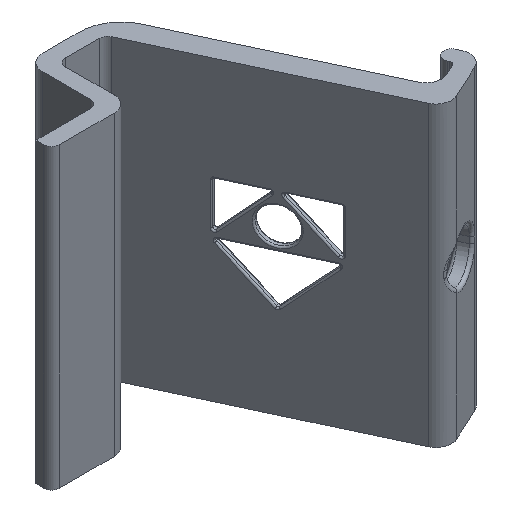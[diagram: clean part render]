
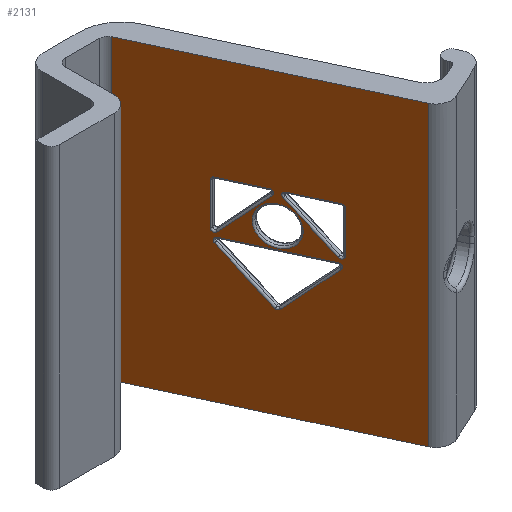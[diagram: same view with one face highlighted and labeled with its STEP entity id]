
A CAD part, isometric view. The second image highlights one B-rep face of the part: STEP entity #2131.
In plain terms, the highlighted planar face has unit normal (-0.906, -0.423, 0).
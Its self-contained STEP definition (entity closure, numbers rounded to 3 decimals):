
#63=FACE_BOUND('',#594,.T.);
#64=FACE_BOUND('',#595,.T.);
#65=FACE_BOUND('',#596,.T.);
#66=FACE_BOUND('',#597,.T.);
#71=PLANE('',#2287);
#104=LINE('',#3279,#250);
#105=LINE('',#3281,#251);
#106=LINE('',#3283,#252);
#107=LINE('',#3284,#253);
#108=LINE('',#3289,#254);
#109=LINE('',#3293,#255);
#110=LINE('',#3296,#256);
#111=LINE('',#3301,#257);
#112=LINE('',#3305,#258);
#113=LINE('',#3308,#259);
#114=LINE('',#3313,#260);
#115=LINE('',#3317,#261);
#116=LINE('',#3320,#262);
#250=VECTOR('',#2578,10.);
#251=VECTOR('',#2579,10.);
#252=VECTOR('',#2580,10.);
#253=VECTOR('',#2581,10.);
#254=VECTOR('',#2584,10.);
#255=VECTOR('',#2587,10.);
#256=VECTOR('',#2590,10.);
#257=VECTOR('',#2593,10.);
#258=VECTOR('',#2596,10.);
#259=VECTOR('',#2599,10.);
#260=VECTOR('',#2602,10.);
#261=VECTOR('',#2605,10.);
#262=VECTOR('',#2608,10.);
#457=FACE_OUTER_BOUND('',#593,.T.);
#593=EDGE_LOOP('',(#1438,#1439,#1440,#1441));
#594=EDGE_LOOP('',(#1442,#1443,#1444,#1445,#1446,#1447));
#595=EDGE_LOOP('',(#1448,#1449,#1450,#1451,#1452,#1453));
#596=EDGE_LOOP('',(#1454,#1455,#1456,#1457,#1458,#1459));
#597=EDGE_LOOP('',(#1460));
#735=CIRCLE('',#2280,6.145);
#741=CIRCLE('',#2288,1.);
#742=CIRCLE('',#2289,1.);
#743=CIRCLE('',#2290,1.);
#744=CIRCLE('',#2291,1.);
#745=CIRCLE('',#2292,1.);
#746=CIRCLE('',#2293,1.);
#747=CIRCLE('',#2294,1.);
#748=CIRCLE('',#2295,1.);
#749=CIRCLE('',#2296,1.);
#891=VERTEX_POINT('',#3263);
#896=VERTEX_POINT('',#3277);
#897=VERTEX_POINT('',#3278);
#898=VERTEX_POINT('',#3280);
#899=VERTEX_POINT('',#3282);
#900=VERTEX_POINT('',#3285);
#901=VERTEX_POINT('',#3286);
#902=VERTEX_POINT('',#3288);
#903=VERTEX_POINT('',#3290);
#904=VERTEX_POINT('',#3292);
#905=VERTEX_POINT('',#3294);
#906=VERTEX_POINT('',#3297);
#907=VERTEX_POINT('',#3298);
#908=VERTEX_POINT('',#3300);
#909=VERTEX_POINT('',#3302);
#910=VERTEX_POINT('',#3304);
#911=VERTEX_POINT('',#3306);
#912=VERTEX_POINT('',#3309);
#913=VERTEX_POINT('',#3310);
#914=VERTEX_POINT('',#3312);
#915=VERTEX_POINT('',#3314);
#916=VERTEX_POINT('',#3316);
#917=VERTEX_POINT('',#3318);
#1091=EDGE_CURVE('',#891,#891,#735,.T.);
#1098=EDGE_CURVE('',#896,#897,#104,.T.);
#1099=EDGE_CURVE('',#898,#896,#105,.T.);
#1100=EDGE_CURVE('',#899,#898,#106,.T.);
#1101=EDGE_CURVE('',#897,#899,#107,.T.);
#1102=EDGE_CURVE('',#900,#901,#741,.T.);
#1103=EDGE_CURVE('',#902,#900,#108,.T.);
#1104=EDGE_CURVE('',#903,#902,#742,.T.);
#1105=EDGE_CURVE('',#904,#903,#109,.T.);
#1106=EDGE_CURVE('',#905,#904,#743,.T.);
#1107=EDGE_CURVE('',#901,#905,#110,.T.);
#1108=EDGE_CURVE('',#906,#907,#744,.T.);
#1109=EDGE_CURVE('',#908,#906,#111,.T.);
#1110=EDGE_CURVE('',#909,#908,#745,.T.);
#1111=EDGE_CURVE('',#910,#909,#112,.T.);
#1112=EDGE_CURVE('',#911,#910,#746,.T.);
#1113=EDGE_CURVE('',#907,#911,#113,.T.);
#1114=EDGE_CURVE('',#912,#913,#747,.T.);
#1115=EDGE_CURVE('',#914,#912,#114,.T.);
#1116=EDGE_CURVE('',#915,#914,#748,.T.);
#1117=EDGE_CURVE('',#916,#915,#115,.T.);
#1118=EDGE_CURVE('',#917,#916,#749,.T.);
#1119=EDGE_CURVE('',#913,#917,#116,.T.);
#1438=ORIENTED_EDGE('',*,*,#1098,.F.);
#1439=ORIENTED_EDGE('',*,*,#1099,.F.);
#1440=ORIENTED_EDGE('',*,*,#1100,.F.);
#1441=ORIENTED_EDGE('',*,*,#1101,.F.);
#1442=ORIENTED_EDGE('',*,*,#1102,.F.);
#1443=ORIENTED_EDGE('',*,*,#1103,.F.);
#1444=ORIENTED_EDGE('',*,*,#1104,.F.);
#1445=ORIENTED_EDGE('',*,*,#1105,.F.);
#1446=ORIENTED_EDGE('',*,*,#1106,.F.);
#1447=ORIENTED_EDGE('',*,*,#1107,.F.);
#1448=ORIENTED_EDGE('',*,*,#1108,.F.);
#1449=ORIENTED_EDGE('',*,*,#1109,.F.);
#1450=ORIENTED_EDGE('',*,*,#1110,.F.);
#1451=ORIENTED_EDGE('',*,*,#1111,.F.);
#1452=ORIENTED_EDGE('',*,*,#1112,.F.);
#1453=ORIENTED_EDGE('',*,*,#1113,.F.);
#1454=ORIENTED_EDGE('',*,*,#1114,.F.);
#1455=ORIENTED_EDGE('',*,*,#1115,.F.);
#1456=ORIENTED_EDGE('',*,*,#1116,.F.);
#1457=ORIENTED_EDGE('',*,*,#1117,.F.);
#1458=ORIENTED_EDGE('',*,*,#1118,.F.);
#1459=ORIENTED_EDGE('',*,*,#1119,.F.);
#1460=ORIENTED_EDGE('',*,*,#1091,.F.);
#2131=ADVANCED_FACE('',(#457,#63,#64,#65,#66),#71,.T.);
#2280=AXIS2_PLACEMENT_3D('',#3264,#2561,#2562);
#2287=AXIS2_PLACEMENT_3D('',#3276,#2576,#2577);
#2288=AXIS2_PLACEMENT_3D('',#3287,#2582,#2583);
#2289=AXIS2_PLACEMENT_3D('',#3291,#2585,#2586);
#2290=AXIS2_PLACEMENT_3D('',#3295,#2588,#2589);
#2291=AXIS2_PLACEMENT_3D('',#3299,#2591,#2592);
#2292=AXIS2_PLACEMENT_3D('',#3303,#2594,#2595);
#2293=AXIS2_PLACEMENT_3D('',#3307,#2597,#2598);
#2294=AXIS2_PLACEMENT_3D('',#3311,#2600,#2601);
#2295=AXIS2_PLACEMENT_3D('',#3315,#2603,#2604);
#2296=AXIS2_PLACEMENT_3D('',#3319,#2606,#2607);
#2561=DIRECTION('center_axis',(-0.906,-0.423,0.));
#2562=DIRECTION('ref_axis',(-0.423,0.906,0.));
#2576=DIRECTION('center_axis',(-0.906,-0.423,0.));
#2577=DIRECTION('ref_axis',(0.423,-0.906,0.));
#2578=DIRECTION('',(0.,0.,1.));
#2579=DIRECTION('',(-0.423,0.906,0.));
#2580=DIRECTION('',(0.,0.,-1.));
#2581=DIRECTION('',(0.423,-0.906,0.));
#2582=DIRECTION('center_axis',(-0.906,-0.423,0.));
#2583=DIRECTION('ref_axis',(-0.39,0.837,0.383));
#2584=DIRECTION('',(-0.423,0.906,0.));
#2585=DIRECTION('center_axis',(-0.906,-0.423,0.));
#2586=DIRECTION('ref_axis',(0.299,-0.641,0.707));
#2587=DIRECTION('',(0.,0.,1.));
#2588=DIRECTION('center_axis',(-0.906,-0.423,0.));
#2589=DIRECTION('ref_axis',(0.162,-0.347,-0.924));
#2590=DIRECTION('',(0.299,-0.641,-0.707));
#2591=DIRECTION('center_axis',(-0.906,-0.423,0.));
#2592=DIRECTION('ref_axis',(-0.162,0.347,-0.924));
#2593=DIRECTION('',(0.,0.,-1.));
#2594=DIRECTION('center_axis',(-0.906,-0.423,0.));
#2595=DIRECTION('ref_axis',(-0.299,0.641,0.707));
#2596=DIRECTION('',(-0.423,0.906,0.));
#2597=DIRECTION('center_axis',(-0.906,-0.423,0.));
#2598=DIRECTION('ref_axis',(0.39,-0.837,0.383));
#2599=DIRECTION('',(0.299,-0.641,0.707));
#2600=DIRECTION('center_axis',(-0.906,-0.423,0.));
#2601=DIRECTION('ref_axis',(-0.39,0.837,0.383));
#2602=DIRECTION('',(-0.423,0.906,0.));
#2603=DIRECTION('center_axis',(-0.906,-0.423,0.));
#2604=DIRECTION('ref_axis',(0.39,-0.837,0.383));
#2605=DIRECTION('',(0.299,-0.641,0.707));
#2606=DIRECTION('center_axis',(-0.906,-0.423,0.));
#2607=DIRECTION('ref_axis',(0.,0.,-1.));
#2608=DIRECTION('',(0.299,-0.641,-0.707));
#3263=CARTESIAN_POINT('',(57.559,-14.655,58.447));
#3264=CARTESIAN_POINT('Origin',(57.559,-14.655,52.301));
#3276=CARTESIAN_POINT('Origin',(40.,23.,0.));
#3277=CARTESIAN_POINT('',(40.673,21.557,0.));
#3278=CARTESIAN_POINT('',(40.673,21.557,95.));
#3279=CARTESIAN_POINT('',(40.673,21.557,0.));
#3280=CARTESIAN_POINT('',(72.857,-47.463,0.));
#3281=CARTESIAN_POINT('',(74.971,-51.994,0.));
#3282=CARTESIAN_POINT('',(72.857,-47.463,95.));
#3283=CARTESIAN_POINT('',(72.857,-47.463,0.));
#3284=CARTESIAN_POINT('',(74.971,-51.994,95.));
#3285=CARTESIAN_POINT('',(58.386,-16.429,62.156));
#3286=CARTESIAN_POINT('',(58.087,-15.788,60.449));
#3287=CARTESIAN_POINT('Origin',(58.386,-16.429,61.156));
#3288=CARTESIAN_POINT('',(64.004,-28.476,62.156));
#3289=CARTESIAN_POINT('',(52.107,-2.965,62.156));
#3290=CARTESIAN_POINT('',(64.426,-29.382,61.156));
#3291=CARTESIAN_POINT('Origin',(64.004,-28.476,61.156));
#3292=CARTESIAN_POINT('',(64.426,-29.382,47.863));
#3293=CARTESIAN_POINT('',(64.426,-29.382,23.328));
#3294=CARTESIAN_POINT('',(63.705,-27.835,47.156));
#3295=CARTESIAN_POINT('Origin',(64.004,-28.476,47.863));
#3296=CARTESIAN_POINT('',(59.772,-19.4,56.463));
#3297=CARTESIAN_POINT('',(50.691,0.073,47.863));
#3298=CARTESIAN_POINT('',(51.413,-1.474,47.156));
#3299=CARTESIAN_POINT('Origin',(51.114,-0.834,47.863));
#3300=CARTESIAN_POINT('',(50.691,0.073,61.156));
#3301=CARTESIAN_POINT('',(50.691,0.073,30.828));
#3302=CARTESIAN_POINT('',(51.114,-0.834,62.156));
#3303=CARTESIAN_POINT('Origin',(51.114,-0.834,61.156));
#3304=CARTESIAN_POINT('',(56.732,-12.881,62.156));
#3305=CARTESIAN_POINT('',(48.621,4.512,62.156));
#3306=CARTESIAN_POINT('',(57.03,-13.522,60.449));
#3307=CARTESIAN_POINT('Origin',(56.732,-12.881,61.156));
#3308=CARTESIAN_POINT('',(43.397,15.715,28.189));
#3309=CARTESIAN_POINT('',(51.413,-1.474,45.656));
#3310=CARTESIAN_POINT('',(51.114,-0.834,43.949));
#3311=CARTESIAN_POINT('Origin',(51.413,-1.474,44.656));
#3312=CARTESIAN_POINT('',(63.705,-27.835,45.656));
#3313=CARTESIAN_POINT('',(52.107,-2.965,45.656));
#3314=CARTESIAN_POINT('',(64.004,-28.476,43.949));
#3315=CARTESIAN_POINT('Origin',(63.705,-27.835,44.656));
#3316=CARTESIAN_POINT('',(57.858,-15.296,29.406));
#3317=CARTESIAN_POINT('',(50.212,1.101,11.314));
#3318=CARTESIAN_POINT('',(57.26,-14.014,29.406));
#3319=CARTESIAN_POINT('Origin',(57.559,-14.655,30.113));
#3320=CARTESIAN_POINT('',(52.798,-4.446,39.963));
